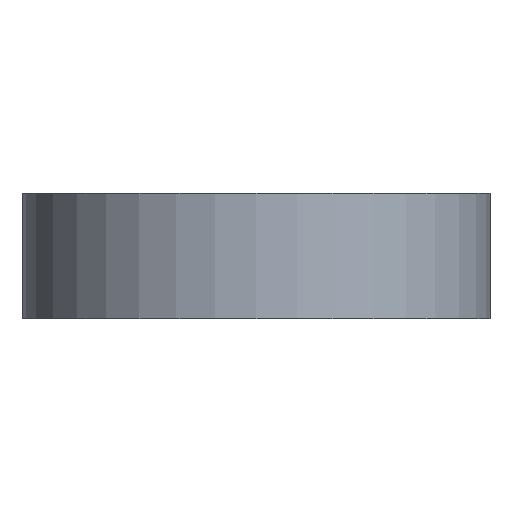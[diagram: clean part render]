
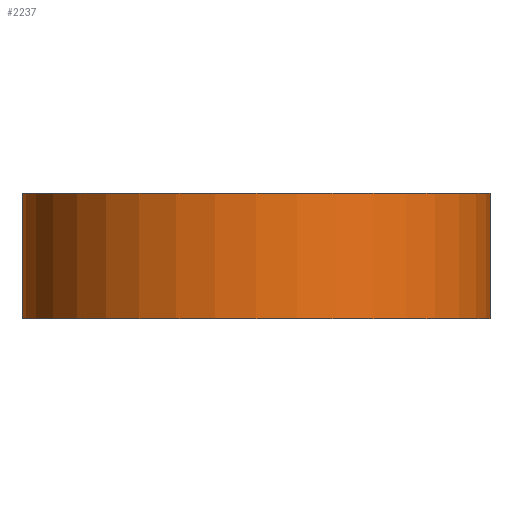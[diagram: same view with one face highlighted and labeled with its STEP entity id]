
A CAD part, front view. The second image highlights one B-rep face of the part: STEP entity #2237.
In plain terms, the highlighted cylindrical face has radius 29.725 mm (diameter 59.45 mm), a partial arc.
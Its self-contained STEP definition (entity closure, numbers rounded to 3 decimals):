
#254 = DIRECTION ( 'NONE',  ( 0., 0., -1. ) ) ;
#314 = VERTEX_POINT ( 'NONE', #4877 ) ;
#395 = DIRECTION ( 'NONE',  ( 1., 0., 0. ) ) ;
#510 = EDGE_LOOP ( 'NONE', ( #7707, #6332, #6834, #3447 ) ) ;
#1710 = VECTOR ( 'NONE', #10368, 1000. ) ;
#2237 = ADVANCED_FACE ( 'NONE', ( #11276 ), #10655, .T. ) ;
#2900 = CARTESIAN_POINT ( 'NONE',  ( 0., -191.5, -8. ) ) ;
#3447 = ORIENTED_EDGE ( 'NONE', *, *, #6564, .F. ) ;
#3624 = VECTOR ( 'NONE', #254, 1000. ) ;
#3788 = CARTESIAN_POINT ( 'NONE',  ( 29.725, -191.5, -8. ) ) ;
#4330 = DIRECTION ( 'NONE',  ( 0., 0., 1. ) ) ;
#4877 = CARTESIAN_POINT ( 'NONE',  ( -29.725, -191.5, -8. ) ) ;
#5531 = AXIS2_PLACEMENT_3D ( 'NONE', #2900, #8886, #6685 ) ;
#5571 = DIRECTION ( 'NONE',  ( -1., 0., 0. ) ) ;
#6332 = ORIENTED_EDGE ( 'NONE', *, *, #9840, .T. ) ;
#6476 = DIRECTION ( 'NONE',  ( 0., 0., -1. ) ) ;
#6564 = EDGE_CURVE ( 'NONE', #10545, #11216, #10635, .T. ) ;
#6685 = DIRECTION ( 'NONE',  ( 1., 0., 0. ) ) ;
#6834 = ORIENTED_EDGE ( 'NONE', *, *, #11149, .T. ) ;
#7707 = ORIENTED_EDGE ( 'NONE', *, *, #9937, .F. ) ;
#7745 = VERTEX_POINT ( 'NONE', #9804 ) ;
#7783 = CARTESIAN_POINT ( 'NONE',  ( 29.725, -191.5, 8. ) ) ;
#8886 = DIRECTION ( 'NONE',  ( 0., 0., 1. ) ) ;
#8930 = LINE ( 'NONE', #12224, #3624 ) ;
#9226 = CIRCLE ( 'NONE', #10442, 29.725 ) ;
#9804 = CARTESIAN_POINT ( 'NONE',  ( -29.725, -191.5, 8. ) ) ;
#9840 = EDGE_CURVE ( 'NONE', #7745, #314, #8930, .T. ) ;
#9937 = EDGE_CURVE ( 'NONE', #7745, #10545, #9226, .T. ) ;
#10327 = CARTESIAN_POINT ( 'NONE',  ( 0., -191.5, 8. ) ) ;
#10368 = DIRECTION ( 'NONE',  ( 0., 0., -1. ) ) ;
#10442 = AXIS2_PLACEMENT_3D ( 'NONE', #10327, #4330, #395 ) ;
#10545 = VERTEX_POINT ( 'NONE', #7783 ) ;
#10635 = LINE ( 'NONE', #11272, #1710 ) ;
#10655 = CYLINDRICAL_SURFACE ( 'NONE', #10682, 29.725 ) ;
#10682 = AXIS2_PLACEMENT_3D ( 'NONE', #12464, #6476, #5571 ) ;
#11149 = EDGE_CURVE ( 'NONE', #314, #11216, #12639, .T. ) ;
#11216 = VERTEX_POINT ( 'NONE', #3788 ) ;
#11272 = CARTESIAN_POINT ( 'NONE',  ( 29.725, -191.5, 8. ) ) ;
#11276 = FACE_OUTER_BOUND ( 'NONE', #510, .T. ) ;
#12224 = CARTESIAN_POINT ( 'NONE',  ( -29.725, -191.5, 8. ) ) ;
#12464 = CARTESIAN_POINT ( 'NONE',  ( 0., -191.5, 8. ) ) ;
#12639 = CIRCLE ( 'NONE', #5531, 29.725 ) ;
